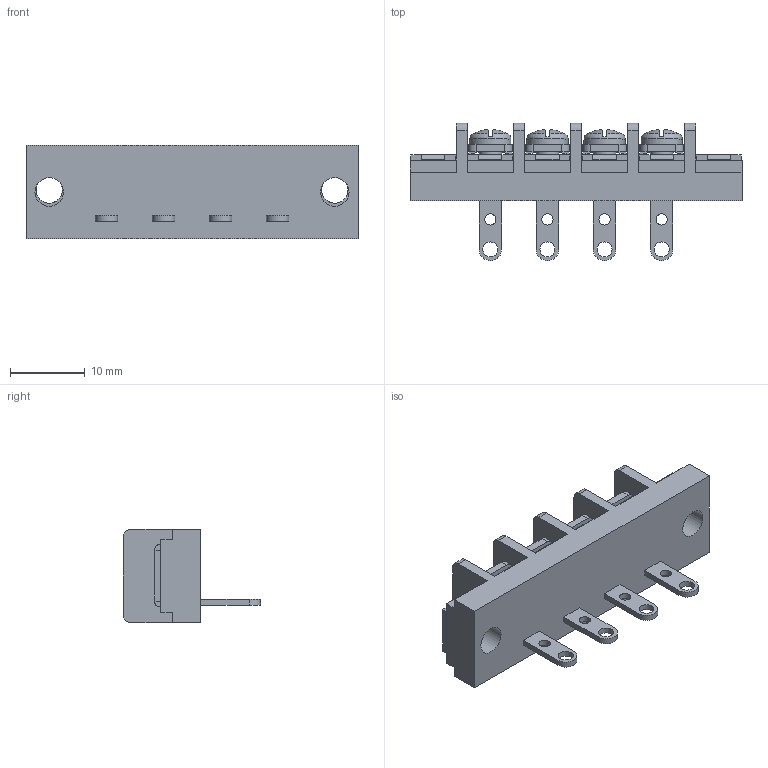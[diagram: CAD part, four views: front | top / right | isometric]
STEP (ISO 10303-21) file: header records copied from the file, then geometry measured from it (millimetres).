
FILE_DESCRIPTION(/* description */ ('Alibre Inc.'),/* implementation_level */ '2;1');
FILE_NAME(/* name */ 'export0',/* time_stamp */ '2015-10-26T18:03:18+09:00',/* author */ (''),/* organization */ (''),/* preprocessor_version */ 'ST-DEVELOPER v14',/* originating_system */ 'Alibre',/* authorisation */ '');
FILE_SCHEMA (('CONFIG_CONTROL_DESIGN'));
Length unit declared in the file: centimetre
Products named in the file (1): ID_1
Bounding box: 44.3 x 18.3 x 12.5 mm (x, y, z)
Volume: 3678.1 mm3; surface area: 3525.1 mm2
Topology: 1 solids, 17 shells, 836 faces, 2252 edges, 1488 vertices
Faces by surface type: plane 634, bspline 104, cylinder 66, cone 16, torus 8, sphere 8
Full cylindrical faces by diameter (mm): 1.5 x4, 2 x4, 3 x4, 3.5 x2, 3.8 x2, 5.5 x4
Entity records: 24965 total; most frequent: CARTESIAN_POINT 5713, ORIENTED_EDGE 4408, DIRECTION 2906, EDGE_CURVE 2204, VECTOR 1616, LINE 1616, VERTEX_POINT 1468, AXIS2_PLACEMENT_3D 933
